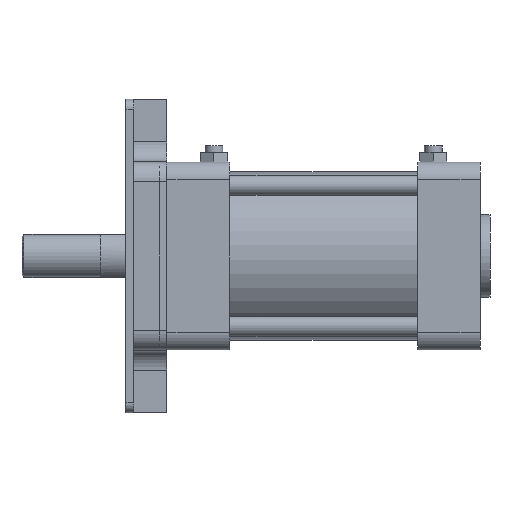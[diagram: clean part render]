
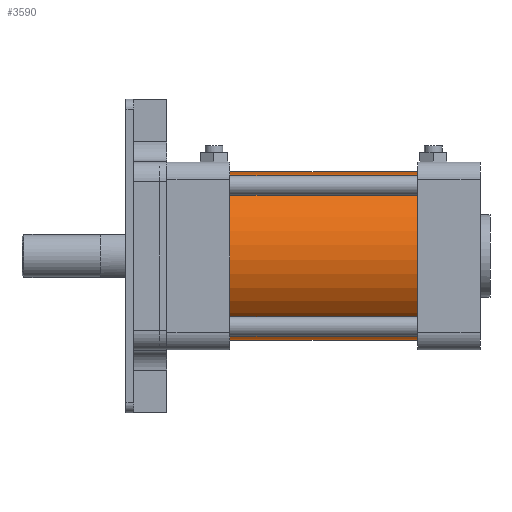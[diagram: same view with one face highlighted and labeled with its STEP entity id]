
A CAD part, front view. The second image highlights one B-rep face of the part: STEP entity #3590.
In plain terms, the highlighted cylindrical face has radius 43 mm (diameter 86 mm), a partial arc.
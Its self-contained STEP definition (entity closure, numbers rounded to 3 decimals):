
#126 = CARTESIAN_POINT ( 'NONE',  ( 48., 0., -43. ) ) ;
#339 = AXIS2_PLACEMENT_3D ( 'NONE', #4584, #3631, #9413 ) ;
#346 = LINE ( 'NONE', #508, #7023 ) ;
#508 = CARTESIAN_POINT ( 'NONE',  ( -29.1, 0., 43. ) ) ;
#540 = ORIENTED_EDGE ( 'NONE', *, *, #592, .T. ) ;
#541 = CARTESIAN_POINT ( 'NONE',  ( -48., 0., 43. ) ) ;
#592 = EDGE_CURVE ( 'NONE', #1832, #7885, #346, .T. ) ;
#635 = EDGE_CURVE ( 'NONE', #8044, #1244, #2447, .T. ) ;
#812 = EDGE_CURVE ( 'NONE', #1244, #7885, #2119, .T. ) ;
#1011 = DIRECTION ( 'NONE',  ( -1., 0., 0. ) ) ;
#1244 = VERTEX_POINT ( 'NONE', #6540 ) ;
#1832 = VERTEX_POINT ( 'NONE', #8559 ) ;
#2119 = CIRCLE ( 'NONE', #339, 43. ) ;
#2447 = LINE ( 'NONE', #3914, #3512 ) ;
#2557 = DIRECTION ( 'NONE',  ( -1., 0., 0. ) ) ;
#3512 = VECTOR ( 'NONE', #6952, 1000. ) ;
#3590 = ADVANCED_FACE ( 'NONE', ( #6404 ), #5291, .T. ) ;
#3631 = DIRECTION ( 'NONE',  ( -1., 0., 0. ) ) ;
#3914 = CARTESIAN_POINT ( 'NONE',  ( -29.1, 0., -43. ) ) ;
#4112 = CARTESIAN_POINT ( 'NONE',  ( 48., 0., 0. ) ) ;
#4584 = CARTESIAN_POINT ( 'NONE',  ( -48., 0., 0. ) ) ;
#5291 = CYLINDRICAL_SURFACE ( 'NONE', #7250, 43. ) ;
#5874 = EDGE_CURVE ( 'NONE', #8044, #1832, #7405, .T. ) ;
#6302 = ORIENTED_EDGE ( 'NONE', *, *, #5874, .T. ) ;
#6404 = FACE_OUTER_BOUND ( 'NONE', #7827, .T. ) ;
#6540 = CARTESIAN_POINT ( 'NONE',  ( -48., 0., -43. ) ) ;
#6887 = CARTESIAN_POINT ( 'NONE',  ( -29.1, 0., 0. ) ) ;
#6952 = DIRECTION ( 'NONE',  ( -1., 0., 0. ) ) ;
#7023 = VECTOR ( 'NONE', #7944, 1000. ) ;
#7250 = AXIS2_PLACEMENT_3D ( 'NONE', #6887, #2557, #7563 ) ;
#7405 = CIRCLE ( 'NONE', #8580, 43. ) ;
#7563 = DIRECTION ( 'NONE',  ( 0., 0., 1. ) ) ;
#7665 = ORIENTED_EDGE ( 'NONE', *, *, #635, .F. ) ;
#7827 = EDGE_LOOP ( 'NONE', ( #7665, #6302, #540, #8493 ) ) ;
#7885 = VERTEX_POINT ( 'NONE', #541 ) ;
#7944 = DIRECTION ( 'NONE',  ( -1., 0., 0. ) ) ;
#7978 = DIRECTION ( 'NONE',  ( 0., 0., 1. ) ) ;
#8044 = VERTEX_POINT ( 'NONE', #126 ) ;
#8493 = ORIENTED_EDGE ( 'NONE', *, *, #812, .F. ) ;
#8559 = CARTESIAN_POINT ( 'NONE',  ( 48., 0., 43. ) ) ;
#8580 = AXIS2_PLACEMENT_3D ( 'NONE', #4112, #1011, #7978 ) ;
#9413 = DIRECTION ( 'NONE',  ( 0., 0., 1. ) ) ;
